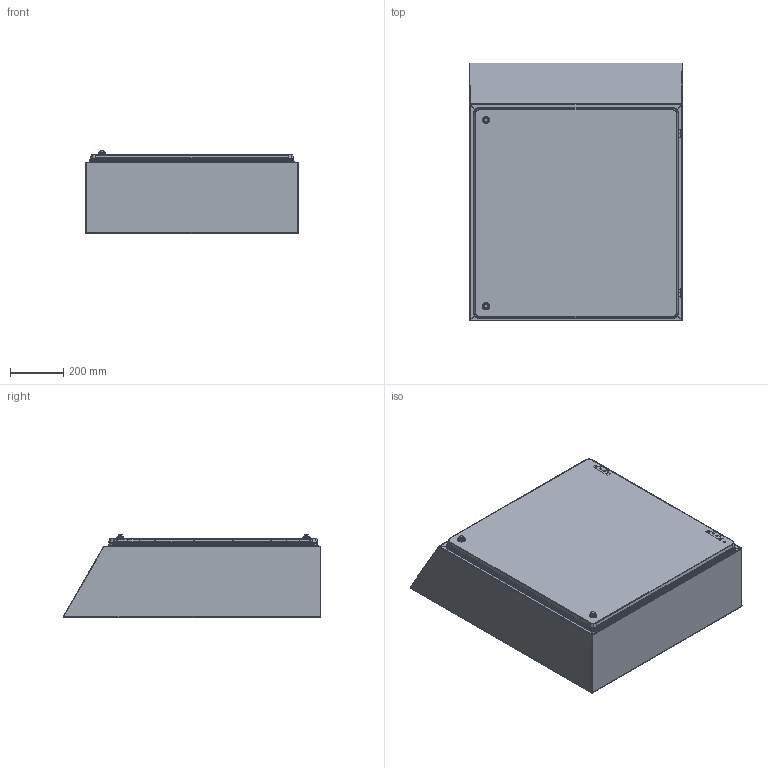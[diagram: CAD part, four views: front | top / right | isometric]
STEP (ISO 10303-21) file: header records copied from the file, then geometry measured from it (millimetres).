
FILE_DESCRIPTION (( 'STEP AP214' ), '1' );
FILE_NAME ('IP-H808030_step.stp', '2025-01-07T05:57:01', ( '' ), ( '' ), 'SwSTEP 2.0', 'SolidWorks 2023', '' );
FILE_SCHEMA (( 'AUTOMOTIVE_DESIGN' ));
Length unit declared in the file: millimetre
Products named in the file (1): IP-H808030_step
Bounding box: 800 x 970.69 x 314.48 mm (x, y, z)
Surface area: 6615393.5 mm2 (no closed solid volume)
Topology: 0 solids, 93 shells, 5333 faces, 12676 edges, 7515 vertices
Faces by surface type: cylinder 1618, plane 1465, torus 1152, bspline 802, cone 256, sphere 40
Entity records: 213757 total; most frequent: CARTESIAN_POINT 95070, ORIENTED_EDGE 25224, DIRECTION 23919, EDGE_CURVE 12616, AXIS2_PLACEMENT_3D 9497, VERTEX_POINT 7511, EDGE_LOOP 5615, FACE_OUTER_BOUND 5333
